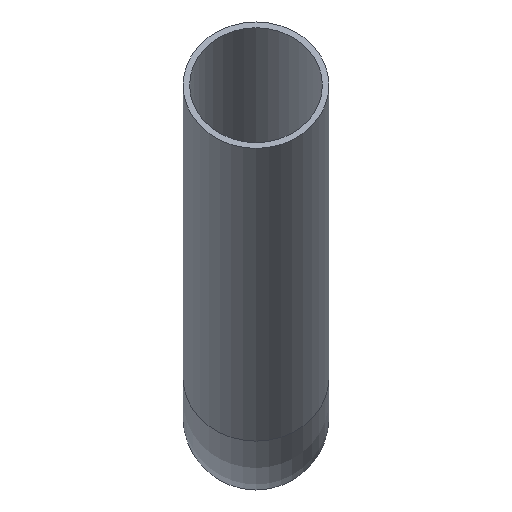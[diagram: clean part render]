
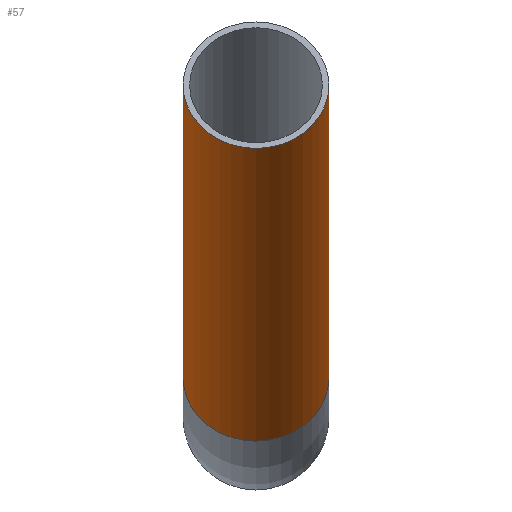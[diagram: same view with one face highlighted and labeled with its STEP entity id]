
A CAD part, front view. The second image highlights one B-rep face of the part: STEP entity #57.
In plain terms, the highlighted cylindrical face has radius 11 mm (diameter 22 mm), a full revolution.
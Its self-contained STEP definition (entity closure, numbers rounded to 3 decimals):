
#57=ADVANCED_FACE('',(#97,#99),#101,.T.);
#97=FACE_OUTER_BOUND('',#98,.T.);
#98=EDGE_LOOP('',(#141));
#99=FACE_OUTER_BOUND('',#100,.T.);
#100=EDGE_LOOP('',(#142));
#101=CYLINDRICAL_SURFACE('',#102,11.);
#102=AXIS2_PLACEMENT_3D('',#103,#104,#105);
#103=CARTESIAN_POINT('',(0.,-10.21,5.895));
#104=DIRECTION('',(0.,-0.866,0.5));
#105=DIRECTION('',(-1.,0.,0.));
#141=ORIENTED_EDGE('',*,*,#153,.T.);
#142=ORIENTED_EDGE('',*,*,#155,.F.);
#153=EDGE_CURVE('',#165,#165,#166,.T.);
#155=EDGE_CURVE('',#169,#169,#170,.T.);
#165=VERTEX_POINT('',#193);
#166=CIRCLE('',#194,11.);
#169=VERTEX_POINT('',#203);
#170=CIRCLE('',#204,11.);
#193=CARTESIAN_POINT('',(-11.,-10.21,5.895));
#194=AXIS2_PLACEMENT_3D('',#195,#196,#197);
#195=CARTESIAN_POINT('',(0.,-10.21,5.895));
#196=DIRECTION('',(0.,-0.866,0.5));
#197=DIRECTION('',(-1.,0.,0.));
#203=CARTESIAN_POINT('',(-11.,-86.603,50.));
#204=AXIS2_PLACEMENT_3D('',#205,#206,#207);
#205=CARTESIAN_POINT('',(0.,-86.603,50.));
#206=DIRECTION('',(0.,-0.866,0.5));
#207=DIRECTION('',(-1.,0.,0.));
